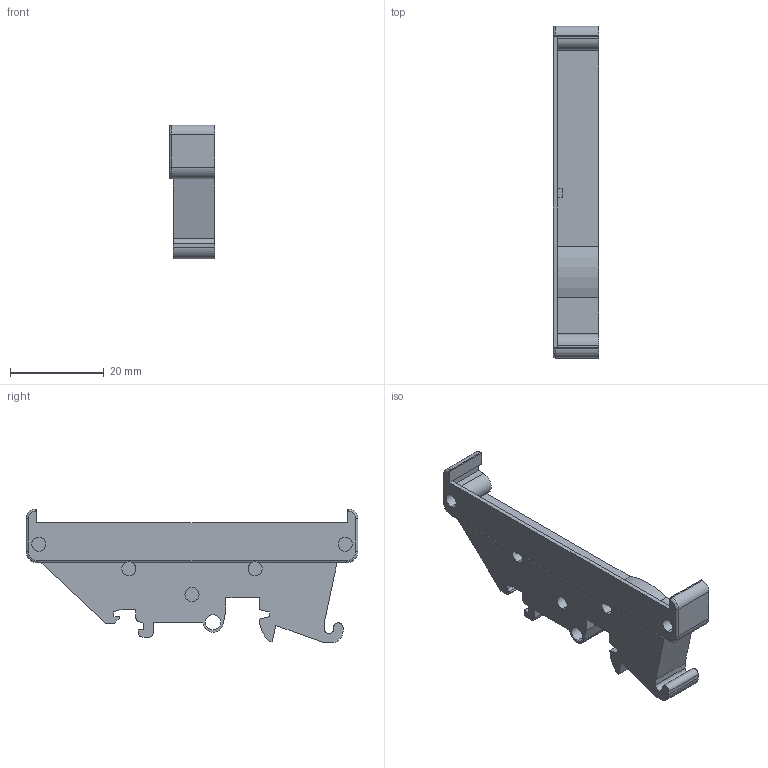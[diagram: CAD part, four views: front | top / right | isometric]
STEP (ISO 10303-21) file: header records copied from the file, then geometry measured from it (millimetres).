
FILE_DESCRIPTION (( 'STEP AP203' ), '1' );
FILE_NAME ('SP7-F.STEP', '2019-09-12T16:55:30', ( '' ), ( '' ), 'SwSTEP 2.0', 'SolidWorks 2012', '' );
FILE_SCHEMA (( 'CONFIG_CONTROL_DESIGN' ));
Length unit declared in the file: millimetre
Products named in the file (1): SP7-F
Bounding box: 9.7 x 71 x 28.6 mm (x, y, z)
Volume: 8231.9 mm3; surface area: 5388.2 mm2
Topology: 1 solids, 1 shells, 130 faces, 335 edges, 220 vertices
Faces by surface type: plane 71, cylinder 55, torus 4
Entity records: 4082 total; most frequent: CARTESIAN_POINT 722, DIRECTION 707, ORIENTED_EDGE 670, EDGE_CURVE 335, AXIS2_PLACEMENT_3D 245, VERTEX_POINT 220, LINE 217, VECTOR 217
